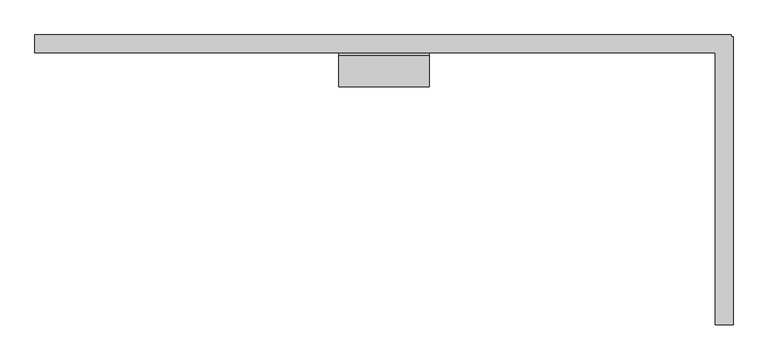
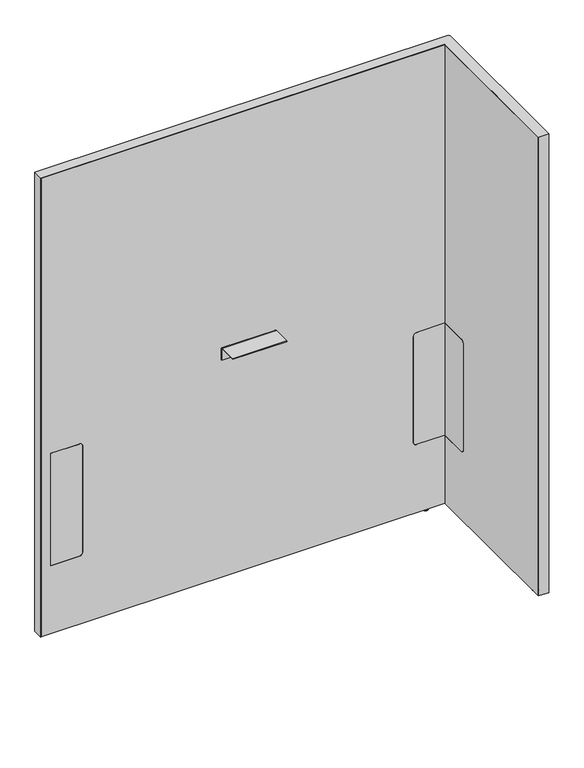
"""IFC4 building model written with IfcOpenShell, lengths in millimetres: furniture geometry, Steelcase - Answer Solution - Boundary Screen - L Return - Single Sided : 54H x 45W."""

from ifc_helpers import new_model, si_unit, point, frame, frame_2d, origin, place, context, project, spatial, polyline, circle_curve, ellipse_curve, trimmed, segment, composite_curve, outline, extrude, faceted_brep, source, transform, mapped, element, save
from ifc_brep_helpers import plane_surface, cylinder_surface, revolved_surface, advanced_brep


def furniture_07a0acb4(model_context):
    return source(origin(), model_context, "Body", "SolidModel", [
        extrude(outline(composite_curve([segment(polyline([(-109.3501471, 549.6162029), (-29.0550397, 549.6162029), (-29.0550397, 213.7762137), (-109.3501471, 213.7762137)]), True, "CONTINUOUS"), segment(trimmed(circle_curve(frame_2d((-109.3501471, 223.9362137)), 10.16), [point((-109.3501471, 213.7762137))], [point((-119.5101471, 223.9362137))], False, "CARTESIAN"), True, "CONTINUOUS"), segment(polyline([(-119.5101471, 223.9362137), (-119.5101471, 539.4562029)]), True, "CONTINUOUS"), segment(trimmed(circle_curve(frame_2d((-109.3501471, 539.4562029)), 10.16), [point((-119.5101471, 539.4562029))], [point((-109.3501471, 549.6162029))], False, "CARTESIAN"), True, "CONTINUOUS")], self_intersect=False)), frame((1372.8191891, 0.0, 0.0), z_axis=(1.0, 0.0, 0.0), x_axis=(0.0, 1.0, 0.0)), (0.0, 0.0, 1.0), 0.6401544),
        advanced_brep(
        [(1387.6672074, -448.0136072, 0.0), (1394.6216144, -448.0136072, 0.0), (1380.7128003, -448.0136072, 0.0), (1396.0762685, -448.0136072, 1.2700001), (1379.2581463, -448.0136072, 1.2700001), (1396.0762685, -448.0136072, 2.9673238), (1379.2581463, -448.0136072, 2.9673238), (1397.0427877, -448.0136072, 2.9673238), (1378.291627, -448.0136072, 2.9673238), (1397.0427877, -448.0136072, 9.9059849), (1378.291627, -448.0136072, 9.9059849), (1387.6672074, -448.0136072, 9.9059849)],
        [
            (0, 1),
            (1, 2, circle_curve(frame((1387.6672074, -448.0136072, 0.0), z_axis=(0.0, 0.0, -1.0), x_axis=(1.0, 0.0, 0.0)), 6.9544071)),
            (2, 0),
            (2, 1, circle_curve(frame((1387.6672074, -448.0136072, 0.0), z_axis=(0.0, 0.0, -1.0), x_axis=(1.0, 0.0, 0.0)), 6.9544071)),
            (1, 3, circle_curve(frame((1394.7945484, -448.0136072, 1.2700001), z_axis=(0.0, -1.0, 0.0), x_axis=(0.0, 0.0, 1.0)), 1.2817201)),
            (3, 4, circle_curve(frame((1387.6672074, -448.0136072, 1.2700001), z_axis=(0.0, 0.0, -1.0), x_axis=(1.0, 0.0, 0.0)), 8.4090611)),
            (4, 2, circle_curve(frame((1380.5398663, -448.0136072, 1.2700001), z_axis=(0.0, -1.0, 0.0), x_axis=(0.0, 0.0, 1.0)), 1.2817201)),
            (4, 3, circle_curve(frame((1387.6672074, -448.0136072, 1.2700001), z_axis=(0.0, 0.0, -1.0), x_axis=(1.0, 0.0, 0.0)), 8.4090611)),
            (3, 5),
            (5, 6, circle_curve(frame((1387.6672074, -448.0136072, 2.9673238), z_axis=(0.0, 0.0, -1.0), x_axis=(1.0, 0.0, 0.0)), 8.4090611)),
            (6, 4),
            (6, 5, circle_curve(frame((1387.6672074, -448.0136072, 2.9673238), z_axis=(0.0, 0.0, -1.0), x_axis=(1.0, 0.0, 0.0)), 8.4090611)),
            (5, 7),
            (7, 8, circle_curve(frame((1387.6672074, -448.0136072, 2.9673238), z_axis=(0.0, 0.0, -1.0), x_axis=(1.0, 0.0, 0.0)), 9.3755804)),
            (8, 6),
            (8, 7, circle_curve(frame((1387.6672074, -448.0136072, 2.9673238), z_axis=(0.0, 0.0, -1.0), x_axis=(1.0, 0.0, 0.0)), 9.3755804)),
            (7, 9),
            (9, 10, circle_curve(frame((1387.6672074, -448.0136072, 9.9059849), z_axis=(0.0, 0.0, -1.0), x_axis=(1.0, 0.0, 0.0)), 9.3755804)),
            (10, 8),
            (10, 9, circle_curve(frame((1387.6672074, -448.0136072, 9.9059849), z_axis=(0.0, 0.0, -1.0), x_axis=(1.0, 0.0, 0.0)), 9.3755804)),
            (9, 11),
            (11, 10),
        ],
        [
            plane_surface(frame((1387.6672074, -448.0136072, 0.0), z_axis=(0.0, 0.0, -1.0), x_axis=(1.0, 0.0, 0.0))),
            revolved_surface(trimmed(ellipse_curve(frame((1394.7945484, -448.0136072, 1.2700001), z_axis=(0.0, 1.0, 0.0), x_axis=(0.0, 0.0, 1.0)), 1.2817201, 1.2817201), [point((1396.0762685, -448.0136072, 1.2700001))], [point((1394.6216144, -448.0136072, 0.0))], True, "CARTESIAN"), (1387.6672074, -448.0136072, 9.9059849), (0.0, 0.0, -1.0)),
            cylinder_surface(frame((1387.6672074, -448.0136072, 9.9059849), z_axis=(0.0, 0.0, -1.0), x_axis=(1.0, 0.0, 0.0)), 8.4090611),
            plane_surface(frame((1387.6672074, -448.0136072, 2.9673238), z_axis=(0.0, 0.0, -1.0), x_axis=(1.0, 0.0, 0.0))),
            cylinder_surface(frame((1387.6672074, -448.0136072, 9.9059849), z_axis=(0.0, 0.0, -1.0), x_axis=(1.0, 0.0, 0.0)), 9.3755804),
            plane_surface(frame((1387.6672074, -448.0136072, 9.9059849), z_axis=(0.0, 0.0, 1.0), x_axis=(1.0, 0.0, 0.0))),
        ],
        [
            (0, [[1, 2, 3]]),
            (0, [[-3, 4, -1]]),
            (1, [[-2, 5, 6, 7]]),
            (1, [[-4, -7, 8, -5]]),
            (2, [[-6, 9, 10, 11]]),
            (2, [[-8, -11, 12, -9]]),
            (3, [[-10, 13, 14, 15]]),
            (3, [[-12, -15, 16, -13]]),
            (4, [[-14, 17, 18, 19]]),
            (4, [[-16, -19, 20, -17]]),
            (5, [[-18, 21, 22]]),
            (5, [[-20, -22, -21]]),
        ],
    ),
        faceted_brep([(1399.2531179, 0.0, 1382.522), (1399.2531179, 0.0, 9.9059849), (1398.2621491, 0.0, 9.9059849), (1398.2621491, 0.0, 1381.542118), (230.8097779, 0.0, 1381.542118), (230.8097779, 0.0, 9.9059849), (229.8191891, 0.0, 9.9059849), (229.8191891, 0.0, 1382.522), (229.8191891, -29.6898332, 1382.522), (229.8191891, -29.6898332, 9.9059849), (230.8097779, -29.6898332, 9.9059849), (230.8097779, -29.6898332, 1381.542118), (1372.8191891, -29.6898332, 1381.542118), (1372.8191891, -29.6898332, 1382.522), (1398.2621491, -29.6898332, 1381.542118), (1398.2621491, -29.6898332, 9.9059849), (1399.2531179, -29.6898332, 9.9059849), (1399.2531179, -29.6898332, 1381.542118), (1399.2531179, -3.2625916, 1382.522), (1399.2531179, -3.2625916, 9.9059849), (1399.2531179, -4.252647, 9.9059849), (1399.2531179, -4.252647, 1381.542118), (1402.5152256, -3.2625916, 9.9059849), (1402.5152256, -4.252647, 9.9059849), (1398.2621491, -4.252647, 9.9059849), (1372.8191891, -4.252647, 9.9059849), (1372.8191891, -3.2625916, 9.9059849), (1398.2621491, -3.2625916, 9.9059849), (1372.8191891, -486.8898332, 1382.522), (1402.5152256, -486.8898332, 1382.522), (1402.5152256, -3.2625916, 1382.522), (1398.2621491, -3.2625916, 1381.542118), (1398.2621491, -4.252647, 1381.542118), (1372.8191891, -3.2625916, 1381.542118), (1372.8191891, -4.252647, 1381.542118), (1402.5152256, -4.252647, 1381.542118), (1402.5152256, -485.899196, 1381.542118), (1372.8191891, -485.899196, 1381.542118), (1372.8191891, -485.899196, 9.9059849), (1372.8191891, -486.8898332, 9.9059849), (1402.5152256, -486.8898332, 9.9059849), (1402.5152256, -485.899196, 9.9059849)], [[[0, 1, 2, 3, 4, 5, 6, 7]], [[8, 9, 10, 11, 12, 13]], [[14, 15, 16, 17]], [[1, 0, 18, 19]], [[17, 16, 20, 21]], [[2, 1, 19, 22, 23, 20, 16, 15, 24, 25, 26, 27]], [[7, 6, 9, 8]], [[0, 7, 8, 13, 28, 29, 30, 18]], [[3, 2, 27, 31]], [[15, 14, 32, 24]], [[4, 3, 31, 33, 34, 32, 14, 17, 21, 35, 36, 37, 12, 11]], [[5, 4, 11, 10]], [[6, 5, 10, 9]], [[26, 25, 34, 33]], [[37, 38, 39, 28, 13, 12]], [[29, 40, 41, 36, 35, 23, 22, 30]], [[27, 26, 33, 31]], [[30, 22, 19, 18]], [[34, 25, 24, 32]], [[23, 35, 21, 20]], [[38, 37, 36, 41]], [[39, 38, 41, 40]], [[28, 39, 40, 29]]]),
        extrude(outline(composite_curve([segment(polyline([(-86.8398151, 696.4680019), (-86.8398151, 698.5), (-34.9450855, 698.5)]), True, "CONTINUOUS"), segment(trimmed(circle_curve(frame_2d((-34.9450855, 693.2447477)), 5.2552523), [point((-34.9450855, 698.5))], [point((-29.6898332, 693.2447477))], False, "CARTESIAN"), True, "CONTINUOUS"), segment(polyline([(-29.6898332, 693.2447477), (-29.6898332, 660.4), (-31.7218162, 660.4), (-31.7218162, 693.0058743)]), True, "CONTINUOUS"), segment(trimmed(circle_curve(frame_2d((-35.1839438, 693.0058743)), 3.4621276), [point((-31.7218162, 693.0058743))], [point((-35.1839438, 696.4680019))], True, "CARTESIAN"), True, "CONTINUOUS"), segment(polyline([(-35.1839438, 696.4680019), (-86.8398151, 696.4680019)]), True, "CONTINUOUS")], self_intersect=False)), frame((739.9685899, 0.0, 0.0), z_axis=(1.0, 0.0, 0.0), x_axis=(0.0, 1.0, 0.0)), (0.0, 0.0, 1.0), 152.4000969),
        advanced_brep(
        [(1325.3246853, -23.7588726, 9.9059849), (1325.3246853, -5.9309607, 9.9059849), (1325.3246853, -14.8449166, 9.9059849), (1325.3246853, -23.7588726, 2.9673238), (1325.3246853, -5.9309607, 2.9673238), (1325.3246853, -22.7915354, 2.9673238), (1325.3246853, -6.8982978, 2.9673238), (1325.3246853, -22.7915354, 1.6569081), (1325.3246853, -6.8982978, 1.6569081), (1325.3246853, -21.1346274, 0.0), (1325.3246853, -8.5552059, 0.0), (1325.3246853, -14.8449166, 0.0)],
        [
            (0, 1, circle_curve(frame((1325.3246853, -14.8449166, 9.9059849), z_axis=(0.0, 0.0, 1.0), x_axis=(0.0, 1.0, 0.0)), 8.913956)),
            (1, 2),
            (2, 0),
            (1, 0, circle_curve(frame((1325.3246853, -14.8449166, 9.9059849), z_axis=(0.0, 0.0, 1.0), x_axis=(0.0, 1.0, 0.0)), 8.913956)),
            (3, 4, circle_curve(frame((1325.3246853, -14.8449166, 2.9673238), z_axis=(0.0, 0.0, 1.0), x_axis=(0.0, 1.0, 0.0)), 8.913956)),
            (4, 1),
            (0, 3),
            (4, 3, circle_curve(frame((1325.3246853, -14.8449166, 2.9673238), z_axis=(0.0, 0.0, 1.0), x_axis=(0.0, 1.0, 0.0)), 8.913956)),
            (5, 6, circle_curve(frame((1325.3246853, -14.8449166, 2.9673238), z_axis=(0.0, 0.0, 1.0), x_axis=(0.0, 1.0, 0.0)), 7.9466188)),
            (6, 4),
            (3, 5),
            (6, 5, circle_curve(frame((1325.3246853, -14.8449166, 2.9673238), z_axis=(0.0, 0.0, 1.0), x_axis=(0.0, 1.0, 0.0)), 7.9466188)),
            (7, 8, circle_curve(frame((1325.3246853, -14.8449166, 1.6569081), z_axis=(0.0, 0.0, 1.0), x_axis=(0.0, 1.0, 0.0)), 7.9466188)),
            (8, 6),
            (5, 7),
            (8, 7, circle_curve(frame((1325.3246853, -14.8449166, 1.6569081), z_axis=(0.0, 0.0, 1.0), x_axis=(0.0, 1.0, 0.0)), 7.9466188)),
            (9, 10, circle_curve(frame((1325.3246853, -14.8449166, 0.0), z_axis=(0.0, 0.0, 1.0), x_axis=(0.0, 1.0, 0.0)), 6.2897107)),
            (10, 8, circle_curve(frame((1325.3246853, -8.5552059, 1.6569081), z_axis=(1.0, 0.0, 0.0), x_axis=(0.0, 1.0, 0.0)), 1.6569081)),
            (7, 9, circle_curve(frame((1325.3246853, -21.1346274, 1.6569081), z_axis=(1.0, 0.0, 0.0), x_axis=(0.0, -1.0, 0.0)), 1.6569081)),
            (10, 9, circle_curve(frame((1325.3246853, -14.8449166, 0.0), z_axis=(0.0, 0.0, 1.0), x_axis=(0.0, 1.0, 0.0)), 6.2897107)),
            (11, 10),
            (9, 11),
        ],
        [
            plane_surface(frame((1325.3246853, -14.8449166, 9.9059849), z_axis=(0.0, 0.0, 1.0), x_axis=(0.0, 1.0, 0.0))),
            cylinder_surface(frame((1325.3246853, -14.8449166, 9.9059849), z_axis=(0.0, 0.0, -1.0), x_axis=(0.0, 1.0, 0.0)), 8.913956),
            plane_surface(frame((1325.3246853, -14.8449166, 2.9673238), z_axis=(0.0, 0.0, -1.0), x_axis=(0.0, 1.0, 0.0))),
            cylinder_surface(frame((1325.3246853, -14.8449166, 9.9059849), z_axis=(0.0, 0.0, -1.0), x_axis=(0.0, 1.0, 0.0)), 7.9466188),
            revolved_surface(trimmed(ellipse_curve(frame((1325.3246853, -8.5552059, 1.6569081), z_axis=(-1.0, 0.0, 0.0), x_axis=(0.0, 1.0, 0.0)), 1.6569081, 1.6569081), [point((1325.3246853, -6.8982978, 1.6569081))], [point((1325.3246853, -8.5552059, 0.0))], True, "CARTESIAN"), (1325.3246853, -14.8449166, 9.9059849), (0.0, 0.0, -1.0)),
            plane_surface(frame((1325.3246853, -14.8449166, 0.0), z_axis=(0.0, 0.0, -1.0), x_axis=(0.0, 1.0, 0.0))),
        ],
        [
            (0, [[1, 2, 3]]),
            (0, [[4, -3, -2]]),
            (1, [[5, 6, -1, 7]]),
            (1, [[8, -7, -4, -6]]),
            (2, [[9, 10, -5, 11]]),
            (2, [[12, -11, -8, -10]]),
            (3, [[13, 14, -9, 15]]),
            (3, [[16, -15, -12, -14]]),
            (4, [[17, 18, -13, 19]]),
            (4, [[20, -19, -16, -18]]),
            (5, [[21, -17, 22]]),
            (5, [[-22, -20, -21]]),
        ],
    ),
        advanced_brep(
        [(230.8097779, 0.0, 1381.542118), (1398.2621491, 0.0, 1381.542118), (1398.2621491, 0.0, 9.9059849), (230.8097779, 0.0, 9.9059849), (347.9483813, -29.0550397, 539.4562029), (337.7883813, -29.0550397, 549.6162029), (258.1344836, -29.0550397, 549.6162029), (258.1344836, -29.0550397, 213.7762137), (337.7883813, -29.0550397, 213.7762137), (347.9483813, -29.0550397, 223.9362137), (1373.4593435, -29.0550397, 213.7762137), (1373.4593435, -29.0550397, 549.6162029), (1292.9109268, -29.0550397, 549.6162029), (1282.7509268, -29.0550397, 539.4562029), (1282.7509268, -29.0550397, 223.9362137), (1292.9109268, -29.0550397, 213.7762137), (230.8097779, -29.6898332, 1381.542118), (230.8097779, -29.6898332, 9.9059849), (1372.8191891, -29.6898332, 9.9059849), (1372.8191891, -29.6898332, 213.7762137), (1292.9109268, -29.6898332, 213.7762137), (1282.7509268, -29.6898332, 223.9362137), (1282.7509268, -29.6898332, 539.4562029), (1292.9109268, -29.6898332, 549.6162029), (1372.8191891, -29.6898332, 549.6162029), (1372.8191891, -29.6898332, 1381.542118), (337.7883813, -29.6898332, 549.6162029), (347.9483813, -29.6898332, 539.4562029), (347.9483813, -29.6898332, 223.9362137), (337.7883813, -29.6898332, 213.7762137), (258.1344836, -29.6898332, 213.7762137), (258.1344836, -29.6898332, 549.6162029), (1398.2621491, -4.252647, 9.9059849), (1402.5152256, -4.252647, 9.9059849), (1402.5152256, -485.899196, 9.9059849), (1372.8191891, -485.899196, 9.9059849), (1398.2621491, -4.252647, 1381.542118), (1372.8191891, -485.899196, 1381.542118), (1402.5152256, -485.899196, 1381.542118), (1402.5152256, -4.252647, 1381.542118), (1373.4593435, -109.3501471, 549.6162029), (1372.8191891, -109.3501471, 549.6162029), (1373.4593435, -109.3501471, 213.7762137), (1373.4593435, -119.5101471, 223.9362137), (1373.4593435, -119.5101471, 539.4562029), (1372.8191891, -109.3501471, 213.7762137), (1372.8191891, -119.5101471, 539.4562029), (1372.8191891, -119.5101471, 223.9362137)],
        [
            (0, 1),
            (1, 2),
            (2, 3),
            (3, 0),
            (4, 5, circle_curve(frame((337.7883813, -29.0550397, 539.4562029), z_axis=(0.0, -1.0, 0.0), x_axis=(0.0, 0.0, 1.0)), 10.16)),
            (5, 6),
            (6, 7),
            (7, 8),
            (8, 9, circle_curve(frame((337.7883813, -29.0550397, 223.9362137), z_axis=(0.0, -1.0, 0.0), x_axis=(0.0, 0.0, 1.0)), 10.16)),
            (9, 4),
            (10, 11),
            (11, 12),
            (12, 13, circle_curve(frame((1292.9109268, -29.0550397, 539.4562029), z_axis=(0.0, -1.0, 0.0), x_axis=(0.0, 0.0, 1.0)), 10.16)),
            (13, 14),
            (14, 15, circle_curve(frame((1292.9109268, -29.0550397, 223.9362137), z_axis=(0.0, -1.0, 0.0), x_axis=(0.0, 0.0, 1.0)), 10.16)),
            (15, 10),
            (16, 17),
            (17, 18),
            (18, 19),
            (19, 20),
            (20, 21, circle_curve(frame((1292.9109268, -29.6898332, 223.9362137), z_axis=(0.0, 1.0, 0.0), x_axis=(0.0, 0.0, 1.0)), 10.16)),
            (21, 22),
            (22, 23, circle_curve(frame((1292.9109268, -29.6898332, 539.4562029), z_axis=(0.0, 1.0, 0.0), x_axis=(0.0, 0.0, 1.0)), 10.16)),
            (23, 24),
            (24, 25),
            (25, 16),
            (26, 27, circle_curve(frame((337.7883813, -29.6898332, 539.4562029), z_axis=(0.0, 1.0, 0.0), x_axis=(0.0, 0.0, 1.0)), 10.16)),
            (27, 28),
            (28, 29, circle_curve(frame((337.7883813, -29.6898332, 223.9362137), z_axis=(0.0, 1.0, 0.0), x_axis=(0.0, 0.0, 1.0)), 10.16)),
            (29, 30),
            (30, 31),
            (31, 26),
            (16, 0),
            (3, 17),
            (2, 32),
            (32, 33),
            (33, 34),
            (34, 35),
            (35, 18),
            (1, 36),
            (36, 32),
            (25, 37),
            (37, 38),
            (38, 39),
            (39, 36),
            (26, 5),
            (4, 27),
            (9, 28),
            (8, 29),
            (7, 30),
            (6, 31),
            (11, 40),
            (40, 41),
            (41, 24),
            (23, 12),
            (42, 43, circle_curve(frame((1373.4593435, -109.3501471, 223.9362137), z_axis=(-1.0, 0.0, 0.0), x_axis=(0.0, 1.0, 0.0)), 10.16)),
            (43, 44),
            (44, 40, circle_curve(frame((1373.4593435, -109.3501471, 539.4562029), z_axis=(-1.0, 0.0, 0.0), x_axis=(0.0, 1.0, 0.0)), 10.16)),
            (10, 42),
            (15, 20),
            (19, 45),
            (45, 42),
            (14, 21),
            (13, 22),
            (35, 37),
            (41, 46, circle_curve(frame((1372.8191891, -109.3501471, 539.4562029), z_axis=(1.0, 0.0, 0.0), x_axis=(0.0, 1.0, 0.0)), 10.16)),
            (46, 47),
            (47, 45, circle_curve(frame((1372.8191891, -109.3501471, 223.9362137), z_axis=(1.0, 0.0, 0.0), x_axis=(0.0, 1.0, 0.0)), 10.16)),
            (38, 34),
            (33, 39),
            (44, 46),
            (43, 47),
        ],
        [
            plane_surface(frame((347.9483813, 0.0, 549.6162029), z_axis=(0.0, 1.0, 0.0), x_axis=(0.0, 0.0, -1.0))),
            plane_surface(frame((347.9483813, -29.0550397, 549.6162029), z_axis=(0.0, -1.0, 0.0), x_axis=(0.0, 0.0, 1.0))),
            plane_surface(frame((1398.2621491, -29.6898332, 1381.542118), z_axis=(0.0, -1.0, 0.0), x_axis=(-1.0, 0.0, 0.0))),
            plane_surface(frame((230.8097779, 0.0, 9.9059849), z_axis=(-1.0, 0.0, 0.0), x_axis=(0.0, -1.0, 0.0))),
            plane_surface(frame((1398.2621491, 0.0, 9.9059849), z_axis=(0.0, 0.0, -1.0), x_axis=(0.0, -1.0, 0.0))),
            plane_surface(frame((1398.2621491, 0.0, 1381.542118), z_axis=(1.0, 0.0, 0.0), x_axis=(0.0, -1.0, 0.0))),
            plane_surface(frame((230.8097779, 0.0, 1381.542118), z_axis=(0.0, 0.0, 1.0), x_axis=(0.0, -1.0, 0.0))),
            revolved_surface(polyline([(337.7883813, -29.6898332, 549.6162029), (337.7883813, -29.0550397, 549.6162029)]), (337.7883813, -29.6898332, 539.4562029), (0.0, -1.0, 0.0)),
            plane_surface(frame((347.9483813, 0.0, 223.9362137), z_axis=(-1.0, 0.0, 0.0), x_axis=(0.0, -1.0, 0.0))),
            revolved_surface(polyline([(337.7883813, -29.6898332, 234.0962137), (337.7883813, -29.0550397, 234.0962137)]), (337.7883813, -29.6898332, 223.9362137), (0.0, -1.0, 0.0)),
            plane_surface(frame((258.1344836, 0.0, 213.7762137), z_axis=(0.0, 0.0, 1.0), x_axis=(0.0, -1.0, 0.0))),
            plane_surface(frame((258.1344836, 0.0, 549.6162029), z_axis=(1.0, 0.0, 0.0), x_axis=(0.0, -1.0, 0.0))),
            plane_surface(frame((337.7883813, 0.0, 549.6162029), z_axis=(0.0, 0.0, -1.0), x_axis=(0.0, -1.0, 0.0))),
            plane_surface(frame((1373.4593435, 0.0, 549.6162029), z_axis=(0.0, 0.0, -1.0), x_axis=(0.0, -1.0, 0.0))),
            plane_surface(frame((1373.4593435, 0.0, 213.7762137), z_axis=(-1.0, 0.0, 0.0), x_axis=(0.0, -1.0, 0.0))),
            plane_surface(frame((1292.9109268, 0.0, 213.7762137), z_axis=(0.0, 0.0, 1.0), x_axis=(0.0, -1.0, 0.0))),
            revolved_surface(polyline([(1292.9109268, -29.6898332, 234.0962137), (1292.9109268, -29.0550397, 234.0962137)]), (1292.9109268, -29.6898332, 223.9362137), (0.0, -1.0, 0.0)),
            plane_surface(frame((1282.7509268, 0.0, 539.4562029), z_axis=(1.0, 0.0, 0.0), x_axis=(0.0, -1.0, 0.0))),
            revolved_surface(polyline([(1292.9109268, -29.6898332, 549.6162029), (1292.9109268, -29.0550397, 549.6162029)]), (1292.9109268, -29.6898332, 539.4562029), (0.0, -1.0, 0.0)),
            plane_surface(frame((1372.8191891, -485.899196, 1381.542118), z_axis=(-1.0, 0.0, 0.0), x_axis=(0.0, 0.0, 1.0))),
            plane_surface(frame((1402.5152256, -485.899196, 1381.542118), z_axis=(1.0, 0.0, 0.0), x_axis=(0.0, 0.0, -1.0))),
            plane_surface(frame((1402.5152256, -4.252647, 9.9059849), z_axis=(0.0, 1.0, 0.0), x_axis=(-1.0, 0.0, 0.0))),
            plane_surface(frame((1402.5152256, -485.899196, 1381.542118), z_axis=(0.0, -1.0, 0.0), x_axis=(-1.0, 0.0, 0.0))),
            revolved_surface(polyline([(1372.8191891, -99.1901471, 539.4562029), (1373.4593435, -99.1901471, 539.4562029)]), (-340.6902705, -109.3501471, 539.4562029), (-1.0, 0.0, 0.0)),
            plane_surface(frame((1402.5152256, -119.5101471, 223.9362137), z_axis=(0.0, 1.0, 0.0), x_axis=(-1.0, 0.0, 0.0))),
            revolved_surface(polyline([(1372.8191891, -99.1901471, 223.9362137), (1373.4593435, -99.1901471, 223.9362137)]), (-340.6902705, -109.3501471, 223.9362137), (-1.0, 0.0, 0.0)),
        ],
        [
            (0, [[1, 2, 3, 4]]),
            (1, [[5, 6, 7, 8, 9, 10]]),
            (1, [[11, 12, 13, 14, 15, 16]]),
            (2, [[17, 18, 19, 20, 21, 22, 23, 24, 25, 26], [27, 28, 29, 30, 31, 32]]),
            (3, [[-17, 33, -4, 34]]),
            (4, [[-3, 35, 36, 37, 38, 39, -18, -34]]),
            (5, [[-2, 40, 41, -35]]),
            (6, [[-1, -33, -26, 42, 43, 44, 45, -40]]),
            (7, [[-27, 46, -5, 47]]),
            (8, [[-28, -47, -10, 48]]),
            (9, [[-29, -48, -9, 49]]),
            (10, [[-30, -49, -8, 50]]),
            (11, [[-31, -50, -7, 51]]),
            (12, [[-32, -51, -6, -46]]),
            (13, [[52, 53, 54, -24, 55, -12]]),
            (14, [[56, 57, 58, -52, -11, 59]]),
            (15, [[-59, -16, 60, -20, 61, 62]]),
            (16, [[-21, -60, -15, 63]]),
            (17, [[-22, -63, -14, 64]]),
            (18, [[-23, -64, -13, -55]]),
            (19, [[65, -42, -25, -54, 66, 67, 68, -61, -19, -39]]),
            (20, [[69, -37, 70, -44]]),
            (21, [[-70, -36, -41, -45]]),
            (22, [[-65, -38, -69, -43]]),
            (23, [[-66, -53, -58, 71]]),
            (24, [[-67, -71, -57, 72]]),
            (25, [[-68, -72, -56, -62]]),
        ],
    ),
        extrude(outline(composite_curve([segment(polyline([(549.6162029, 337.7883813), (549.6162029, 258.1344836), (213.7762137, 258.1344836), (213.7762137, 337.7883813)]), True, "CONTINUOUS"), segment(trimmed(circle_curve(frame_2d((223.9362137, 337.7883813)), 10.16), [point((213.7762137, 337.7883813))], [point((223.9362137, 347.9483813))], False, "CARTESIAN"), True, "CONTINUOUS"), segment(polyline([(223.9362137, 347.9483813), (539.4562029, 347.9483813)]), True, "CONTINUOUS"), segment(trimmed(circle_curve(frame_2d((539.4562029, 337.7883813)), 10.16), [point((539.4562029, 347.9483813))], [point((549.6162029, 337.7883813))], False, "CARTESIAN"), True, "CONTINUOUS")], self_intersect=False)), frame((0.0, -29.6898332, 0.0), z_axis=(0.0, 1.0, 0.0), x_axis=(0.0, 0.0, 1.0)), (0.0, 0.0, 1.0), 0.6347935),
        extrude(outline(composite_curve([segment(trimmed(circle_curve(frame_2d((539.4562029, 1292.9109268)), 10.16), [point((549.6162029, 1292.9109268))], [point((539.4562029, 1282.7509268))], False, "CARTESIAN"), True, "CONTINUOUS"), segment(polyline([(539.4562029, 1282.7509268), (223.9362137, 1282.7509268)]), True, "CONTINUOUS"), segment(trimmed(circle_curve(frame_2d((223.9362137, 1292.9109268)), 10.16), [point((223.9362137, 1282.7509268))], [point((213.7762137, 1292.9109268))], False, "CARTESIAN"), True, "CONTINUOUS"), segment(polyline([(213.7762137, 1292.9109268), (213.7762137, 1372.8191891), (549.6162029, 1372.8191891), (549.6162029, 1292.9109268)]), True, "CONTINUOUS")], self_intersect=False)), frame((0.0, -29.6898332, 0.0), z_axis=(0.0, 1.0, 0.0), x_axis=(0.0, 0.0, 1.0)), (0.0, 0.0, 1.0), 0.6347935),
    ])


if __name__ == "__main__":
    model = new_model("IFC4")
    model_context = context("Model", 3, world=origin())
    ifc_project = project(units=[si_unit("LENGTHUNIT", "METRE", prefix="MILLI")], contexts=[model_context])
    site = spatial("IfcSite", under=ifc_project)
    building = spatial("IfcBuilding", under=site)
    placement = place(None, origin())
    furniture_shape = furniture_07a0acb4(model_context)
    element("IfcFurniture", 1, ObjectType="Steelcase - Answer Solution - Boundary Screen - L Return - Single Sided : 54H x 45W", at=placement, inside=building, context=model_context, shape_type="MappedRepresentation", body=[
        mapped(furniture_shape, transform((0.0, 0.0, 0.0), x_axis=(1.0, 0.0, 0.0), y_axis=(0.0, 1.0, 0.0), z_axis=(0.0, 0.0, 1.0))),
    ])
    save(model, "model.ifc")
